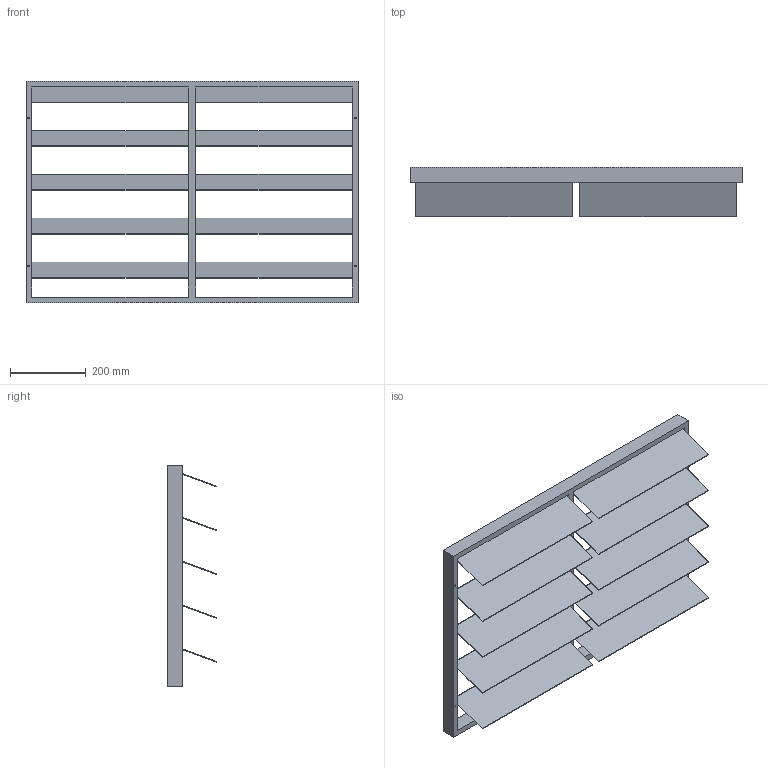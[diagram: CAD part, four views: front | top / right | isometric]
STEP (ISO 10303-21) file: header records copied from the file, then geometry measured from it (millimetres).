
FILE_DESCRIPTION(/* description */ (''),/* implementation_level */ '2;1');
FILE_NAME(/* name */ 'Z:\Output\VK 80-50-00880-001.stp',/* time_stamp */ '2017-05-05T18:42:33+02:00',/* author */ ('pareshmistry'),/* organization */ (''),/* preprocessor_version */ 'ST-DEVELOPER v16.5',/* originating_system */ 'Autodesk Inventor 2017',/* authorisation */ '');
FILE_SCHEMA (('AUTOMOTIVE_DESIGN { 1 0 10303 214 3 1 1 }'));
Length unit declared in the file: millimetre
Products named in the file (1): VK-2
Bounding box: 876 x 131 x 585 mm (x, y, z)
Volume: 3076049.4 mm3; surface area: 1376792.1 mm2
Topology: 1 solids, 1 shells, 84 faces, 256 edges, 156 vertices
Faces by surface type: plane 80, cylinder 4
Full cylindrical faces by diameter (mm): 4 x4
Entity records: 2794 total; most frequent: ORIENTED_EDGE 500, CARTESIAN_POINT 485, DIRECTION 426, EDGE_CURVE 248, LINE 240, VECTOR 240, VERTEX_POINT 152, EDGE_LOOP 100
